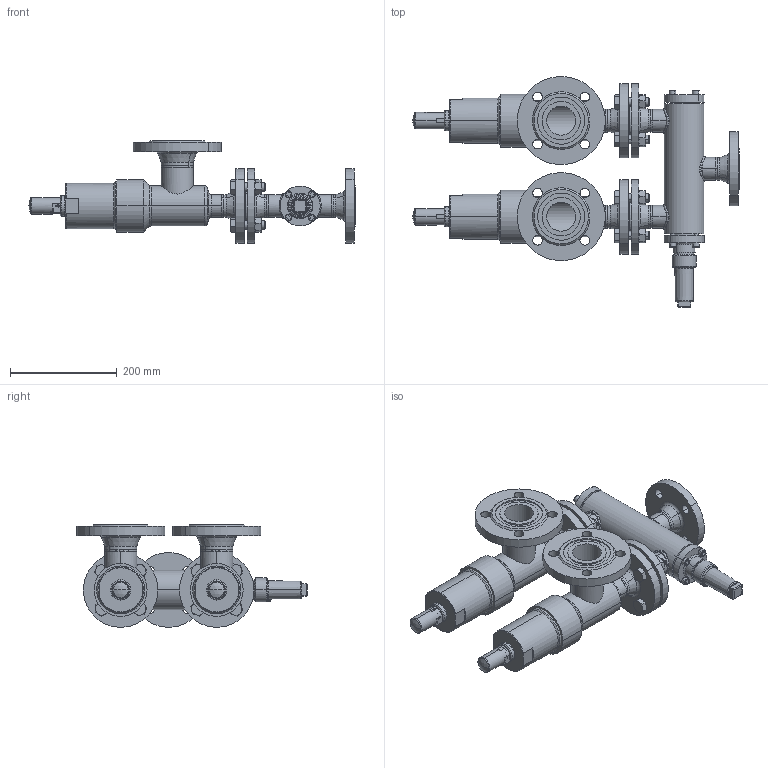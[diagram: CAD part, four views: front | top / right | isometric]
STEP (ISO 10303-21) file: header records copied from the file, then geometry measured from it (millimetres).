
FILE_DESCRIPTION (( 'STEP AP214' ), '1' );
FILE_NAME ('WVB-SVUA_1C5FL_DN32_DIN-FL_seitlich.STEP', '2010-09-09T11:54:30', ( 'Eckhard Grams' ), ( 'AWP Kälte Klima Armaturen GmbH' ), 'SwSTEP 2.0', 'SolidWorks 2002296', '' );
FILE_SCHEMA (( 'AUTOMOTIVE_DESIGN' ));
Length unit declared in the file: millimetre
Products named in the file (30): WVB-SVUA_1C5FL_DN32_DIN-FL_seitlich; SVUA 45820D13-DN32(50)_DIN; Gehkpl 45720E13-5030001; Rohrstutzen-A 45700E13-5036004_DN32(50)_Standard; Geh 45700E13-5034004_DN32; Flansch-DIN2635-Nut_PS40_DIN-Flansch-DN050_PS40-Nut; bead Geh,kpl 45720E13-2_Standard; bead Geh,kpl 45720E13-1_Standard; Flachdichtg-Alu-DN32; Haube 45700E13-5260003_DN32; Kappe SVA-SVU-ORV_DN10-40 (M27x1,5)_Standard; WVB23020D13-DN032_DIN-FL-N-F_PS40_Standard; Kappe 16402-13_DN10-32 (M36x2)_Standard; AVB16300E13_Deck+Schr-DN25-32_Standard; Deckel16300E13-DN25-32_Standard; Geh,kpl24020E13-DN32_DIN-FL-N-F_PS40_Standard; Geh,kpl24000E13_DN32_R1_PS40_Standard; Gehäuse24000E13-DN32_R1_PS40_Standard; Rohrstutzen-24000E13-DN32_R1_Standard; Schw-24000E13-DN32_Standard; Flansch-DIN2635-Feder_PS40_DIN-Flansch-DN032_PS40-Feder; Flansch-DIN2635-Nut_PS40_DIN-Flansch-DN032_PS40-Nut; beadC4020-13-2_Standard; beadC4020-13-3_Standard; beadC4020-13-1_Standard; WVB-R23000E13_Deck+Schr-DN25-32_Standard; Deckel23000E13-DN25-32_Standard; Zylinderschraube-DIN912_M 8x  25; Sechskantschraube-DIN933_M16x 55; Sechskantmutter-DIN934_M16
Assembly tree (57 placements, depth 5):
  WVB-SVUA_1C5FL_DN32_DIN-FL_seitlich
    Sechskantmutter-DIN934_M16  x8
    SVUA 45820D13-DN32(50)_DIN  x2
      Haube 45700E13-5260003_DN32
      Kappe SVA-SVU-ORV_DN10-40 (M27x1,5)_Standard
      Gehkpl 45720E13-5030001
        Flansch-DIN2635-Nut_PS40_DIN-Flansch-DN032_PS40-Nut
        bead Geh,kpl 45720E13-2_Standard
        bead Geh,kpl 45720E13-1_Standard
        Geh 45700E13-5034004_DN32
        Flansch-DIN2635-Nut_PS40_DIN-Flansch-DN050_PS40-Nut
        Rohrstutzen-A 45700E13-5036004_DN32(50)_Standard
      Flachdichtg-Alu-DN32
    Sechskantschraube-DIN933_M16x 55  x8
    WVB23020D13-DN032_DIN-FL-N-F_PS40_Standard
      Kappe 16402-13_DN10-32 (M36x2)_Standard
      WVB-R23000E13_Deck+Schr-DN25-32_Standard
        Zylinderschraube-DIN912_M 8x  25  x4
        Deckel23000E13-DN25-32_Standard
      AVB16300E13_Deck+Schr-DN25-32_Standard
        Deckel16300E13-DN25-32_Standard
        Zylinderschraube-DIN912_M 8x  25  x4
      Geh,kpl24020E13-DN32_DIN-FL-N-F_PS40_Standard
        Flansch-DIN2635-Feder_PS40_DIN-Flansch-DN032_PS40-Feder  x2
        Geh,kpl24000E13_DN32_R1_PS40_Standard
          Schw-24000E13-DN32_Standard  x3
          Rohrstutzen-24000E13-DN32_R1_Standard  x3
          Gehäuse24000E13-DN32_R1_PS40_Standard
        beadC4020-13-1_Standard
        Flansch-DIN2635-Nut_PS40_DIN-Flansch-DN032_PS40-Nut
        beadC4020-13-3_Standard
        beadC4020-13-2_Standard
Bounding box: 611.5 x 431.69 x 191.73 mm (x, y, z)
Volume: 4322188.8 mm3; surface area: 1016647.6 mm2
Topology: 58 solids, 58 shells, 1421 faces, 3253 edges, 1999 vertices
Faces by surface type: cylinder 504, plane 381, cone 379, torus 95, bspline 54, sphere 8
Entity records: 43208 total; most frequent: CARTESIAN_POINT 27104, DIRECTION 2967, ORIENTED_EDGE 2794, EDGE_CURVE 1397, AXIS2_PLACEMENT_3D 1265, VERTEX_POINT 870, EDGE_LOOP 703, CIRCLE 640
